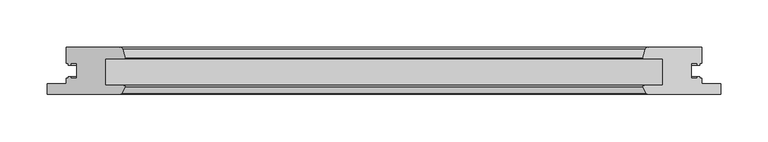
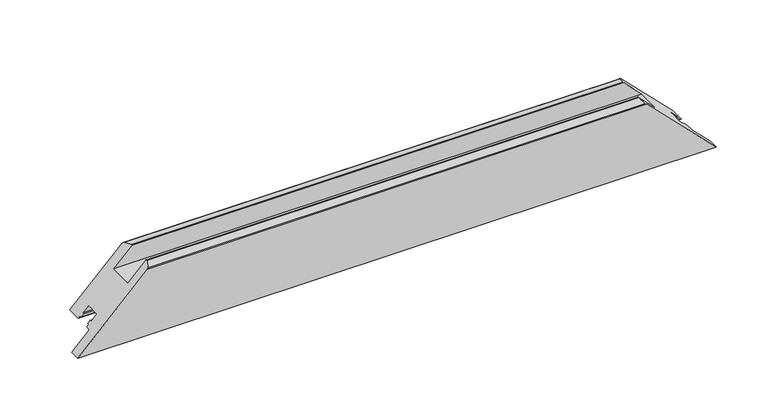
"""IFC4 building model written with IfcOpenShell, lengths in millimetres: proxy geometry, Weiku - Montante - Folha 02.2.01.017 : Weiku - Montante - Folha 02.2.01.017."""

import ifcopenshell
import ifcopenshell.guid

model = None  # the IFC model being written
_history = None  # IfcOwnerHistory: only IFC2X3 demands one
_inside = {}  # id of a spatial element -> (the spatial element, [elements in it])
_under = {}  # id of a project, library or spatial element -> (it, [spatial elements below it])
_declared = {}  # id of a project -> (the project, [libraries it declares])
_typed = {}  # id of a type object -> (the type object, [elements of that type])
_made_of = {}  # id of a material, layer set ... -> (it, [elements and type objects made of it])


def new_model(schema):
    """Start an empty IFC model of exactly this schema.

    Asked for "IFC4X3", IfcOpenShell would pick the latest addendum, in which some entities
    have other attributes; the version numbers below select the first issue.
    IFC2X3 requires an IfcOwnerHistory on every rooted entity: one is made here for all.
    """
    global model, _history
    if schema == "IFC4X3":
        model = ifcopenshell.file(schema_version=(4, 3, 0, 0))
    else:
        model = ifcopenshell.file(schema=schema)
    _inside.clear()
    _under.clear()
    _declared.clear()
    _typed.clear()
    _made_of.clear()
    _history = None
    if model.schema == "IFC2X3":
        org = make("IfcOrganization", Name="unknown")
        user = make(
            "IfcPersonAndOrganization",
            ThePerson=make("IfcPerson", FamilyName="unknown"),
            TheOrganization=org,
        )
        app = make(
            "IfcApplication",
            ApplicationDeveloper=org,
            Version="unknown",
            ApplicationFullName="unknown",
            ApplicationIdentifier="unknown",
        )
        _history = make(
            "IfcOwnerHistory",
            OwningUser=user,
            OwningApplication=app,
            ChangeAction="ADDED",
            CreationDate=0,
        )
    return model


def make(cls, **values):
    """One entity of the class cls with the attributes given. An attribute that is None is left unset."""
    return model.create_entity(
        cls, **{name: value for name, value in values.items() if value is not None}
    )


def rooted(cls, **values):
    """An entity with a GlobalId (a new one), such as an element, a storey or a relation."""
    return make(cls, GlobalId=ifcopenshell.guid.new(), OwnerHistory=_history, **values)


def si_unit(unit_type, name, prefix=None):
    """IfcSIUnit, for example si_unit("LENGTHUNIT", "METRE", prefix="MILLI")."""
    return make("IfcSIUnit", UnitType=unit_type, Prefix=prefix, Name=name)


def assignment(units):
    """IfcUnitAssignment: the units of a project."""
    return None if units is None else make("IfcUnitAssignment", Units=units)


def point(xyz):
    """IfcCartesianPoint."""
    return None if xyz is None else make("IfcCartesianPoint", Coordinates=xyz)


def direction(xyz):
    """IfcDirection."""
    return None if xyz is None else make("IfcDirection", DirectionRatios=xyz)


def frame(location, z_axis=None, x_axis=None):
    """IfcAxis2Placement3D, a coordinate frame: its origin and axes. An axis left out is left unset."""
    return make(
        "IfcAxis2Placement3D",
        Location=point(location),
        Axis=direction(z_axis),
        RefDirection=direction(x_axis),
    )


def origin():
    """The frame at (0, 0, 0) with its axes left unset."""
    return frame((0.0, 0.0, 0.0))


def place(relative_to, where):
    """IfcLocalPlacement: puts the frame where relative to a parent placement (None: the world)."""
    return make(
        "IfcLocalPlacement", PlacementRelTo=relative_to, RelativePlacement=where
    )


def context(
    kind, dimensions, precision=None, world=None, true_north=None, identifier=None
):
    """IfcGeometricRepresentationContext, for example the 3D "Model" context."""
    return make(
        "IfcGeometricRepresentationContext",
        ContextIdentifier=identifier,
        ContextType=kind,
        CoordinateSpaceDimension=dimensions,
        Precision=precision,
        WorldCoordinateSystem=world,
        TrueNorth=true_north,
    )


def project(units=None, contexts=None):
    """IfcProject with its units and contexts."""
    return rooted(
        "IfcProject",
        Name="project",
        RepresentationContexts=contexts,
        UnitsInContext=assignment(units),
    )


def spatial(cls, under=None, at=None, **own):
    """A site, building, storey or space (cls), placed at a placement, below another one or the project."""
    s = rooted(cls, ObjectPlacement=at, **own)
    if under is not None:
        _under.setdefault(under.id(), (under, []))[1].append(s)
    return s


def ellipse_curve(where, semi_axis1, semi_axis2):
    """IfcEllipse in the frame where."""
    return make(
        "IfcEllipse", Position=where, SemiAxis1=semi_axis1, SemiAxis2=semi_axis2
    )


def shape(context_of_items, identifier, shape_type, items):
    """IfcShapeRepresentation: the items that make up one representation, for example the "Body"."""
    return make(
        "IfcShapeRepresentation",
        ContextOfItems=context_of_items,
        RepresentationIdentifier=identifier,
        RepresentationType=shape_type,
        Items=items,
    )


def source(mapping_origin, context_of_items, identifier, shape_type, items):
    """IfcRepresentationMap: a shape defined once, which mapped items show again and again."""
    return make(
        "IfcRepresentationMap",
        MappingOrigin=mapping_origin,
        MappedRepresentation=shape(context_of_items, identifier, shape_type, items),
    )


def transform(
    local_origin,
    x_axis=None,
    y_axis=None,
    z_axis=None,
    scale=None,
    scale2=None,
    scale3=None,
    uniform=True,
):
    """IfcCartesianTransformationOperator3D, or its non-uniform kind. x_axis, y_axis, z_axis: its Axis1, 2, 3."""
    if uniform:
        return make(
            "IfcCartesianTransformationOperator3D",
            Axis1=direction(x_axis),
            Axis2=direction(y_axis),
            LocalOrigin=point(local_origin),
            Scale=scale,
            Axis3=direction(z_axis),
        )
    return make(
        "IfcCartesianTransformationOperator3DnonUniform",
        Axis1=direction(x_axis),
        Axis2=direction(y_axis),
        LocalOrigin=point(local_origin),
        Scale=scale,
        Axis3=direction(z_axis),
        Scale2=scale2,
        Scale3=scale3,
    )


def mapped(mapping_source, mapping_target):
    """IfcMappedItem: shows the shape of a source again, moved by a transform."""
    return make(
        "IfcMappedItem", MappingSource=mapping_source, MappingTarget=mapping_target
    )


def made_of(thing, what):
    """Note that an element or type object is made of a material, layer set ...; save() writes the relation."""
    if what is not None:
        _made_of.setdefault(what.id(), (what, []))[1].append(thing)
    return thing


def element(
    cls,
    number,
    at=None,
    inside=None,
    cuts=None,
    type_object=None,
    material=None,
    context=None,
    identifier="Body",
    shape_type=None,
    held_by="IfcProductDefinitionShape",
    body=None,
    shapes=None,
    **own,
):
    """One element of the class cls, such as IfcWall. Its Tag is "e" and its number.

    at: its placement. inside: the storey or other place that contains it. cuts: it is an
    opening in that element (IfcRelVoidsElement). A single representation is given by context,
    identifier, shape_type and body (its items); several are given by shapes. held_by: the class
    of the entity that holds the representations. save() writes the other relations.
    """
    e = rooted(cls, Tag="e%d" % number, ObjectPlacement=at, **own)
    if body is not None:
        shapes = [shape(context, identifier, shape_type, body)]
    if shapes is not None:
        e.Representation = make(held_by, Representations=shapes)
    if inside is not None:
        _inside.setdefault(inside.id(), (inside, []))[1].append(e)
    if cuts is not None:
        rooted(
            "IfcRelVoidsElement", RelatingBuildingElement=cuts, RelatedOpeningElement=e
        )
    if type_object is not None:
        _typed.setdefault(type_object.id(), (type_object, []))[1].append(e)
    return made_of(e, material)


def aggregate(whole, parts):
    """IfcRelAggregates: a whole, such as a stair, and the parts it consists of."""
    return rooted("IfcRelAggregates", RelatingObject=whole, RelatedObjects=parts)


def save(model, path):
    """Write the relations noted so far, then the file.

    IfcRelAggregates (storeys below a building ...), IfcRelContainedInSpatialStructure (elements
    in a storey), IfcRelDefinesByType, IfcRelAssociatesMaterial and IfcRelDeclares: one each for
    every whole, place, type object, material and project.
    """
    for whole, parts in _under.values():
        aggregate(whole, parts)
    for where, things in _inside.values():
        rooted(
            "IfcRelContainedInSpatialStructure",
            RelatedElements=things,
            RelatingStructure=where,
        )
    for kind, things in _typed.values():
        rooted("IfcRelDefinesByType", RelatedObjects=things, RelatingType=kind)
    for what, things in _made_of.values():
        rooted("IfcRelAssociatesMaterial", RelatedObjects=things, RelatingMaterial=what)
    for by, libraries in _declared.values():
        rooted("IfcRelDeclares", RelatingContext=by, RelatedDefinitions=libraries)
    model.write(path)


def plane_surface(at):
    """IfcPlane: the flat surface through the origin of the frame at, square to its z axis."""
    return make("IfcPlane", Position=at)


def cylinder_surface(at, radius):
    """IfcCylindricalSurface: all points at the distance radius from the z axis of the frame at."""
    return make("IfcCylindricalSurface", Position=at, Radius=radius)


def advanced_brep(points, edges, surfaces, faces):
    """IfcAdvancedBrep: a solid bounded by faces that lie on surfaces and meet in shared edges.

    An edge is (start, end): straight between two places in points (the first is 0);
    or (start, end, curve); or (start, end, curve, False) where it runs against its curve.
    A face is (place in surfaces, loops), or (place, loops, False) where it looks against
    its surface's normal. A loop lists edges by number (the first is 1), with a minus sign
    where the edge is run from its end to its start. The first loop is the outer one.
    """
    corners = [point(p) for p in points]
    vertices = [make("IfcVertexPoint", VertexGeometry=c) for c in corners]
    made = []
    for start, end, *more in edges:
        made.append(
            make(
                "IfcEdgeCurve",
                EdgeStart=vertices[start],
                EdgeEnd=vertices[end],
                EdgeGeometry=more[0] if more else make("IfcPolyline", Points=[corners[start], corners[end]]),
                SameSense=more[1] if len(more) > 1 else True,
            )
        )
    hull = []
    for where, loops, *sense in faces:
        bounds = []
        for j, loop in enumerate(loops):
            ring = [make("IfcOrientedEdge", EdgeElement=made[abs(k) - 1], Orientation=k > 0) for k in loop]
            bounds.append(
                make(
                    "IfcFaceOuterBound" if j == 0 else "IfcFaceBound",
                    Bound=make("IfcEdgeLoop", EdgeList=ring),
                    Orientation=True,
                )
            )
        hull.append(make("IfcAdvancedFace", Bounds=bounds, FaceSurface=surfaces[where], SameSense=sense[0] if sense else True))
    return make("IfcAdvancedBrep", Outer=make("IfcClosedShell", CfsFaces=hull))


def generic_models_6cb276b9(model_context):
    return source(origin(), model_context, "Body", "AdvancedBrep", [
        advanced_brep(
        [(-336.9166667, 50.0, 20.0), (-279.9163998, 50.0, 77.0002668), (279.9163998, 50.0, 77.0002668), (336.9166667, 50.0, 20.0), (-356.9166667, 0.0, 0.0), (356.9166667, 0.0, 0.0), (278.9038931, 0.0, 78.0127736), (-278.9038931, 0.0, 78.0127736), (-336.9166667, 33.1, 20.0), (-334.7166667, 33.1, 22.2), (-334.7166667, 31.1, 22.2), (-331.9166667, 31.1, 25.0), (-331.9166667, 33.1, 25.0), (-325.4166667, 33.1, 31.5), (-325.4166667, 16.9, 31.5), (-331.9166667, 16.9, 25.0), (-331.9166667, 18.9, 25.0), (-334.7166667, 18.9, 22.2), (-334.7166667, 16.9, 22.2), (-336.9166667, 16.9, 20.0), (-336.9166667, 11.5, 20.0), (-356.9166667, 11.5, 0.0), (-278.0099324, 0.5518546, 78.9067343), (-274.4679462, 7.617411, 82.4487204), (-275.6300951, 9.5, 81.2865715), (-295.4166667, 9.5, 61.5), (-295.4166667, 37.5, 61.5), (-274.9166667, 37.5, 82.0), (-274.4337038, 38.1294095, 82.4829629), (-277.0186224, 47.7764571, 79.8980443), (277.0186224, 47.7764571, 79.8980443), (274.4337038, 38.1294095, 82.4829629), (274.9166667, 37.5, 82.0), (295.4166667, 37.5, 61.5), (295.4166667, 9.5, 61.5), (275.6300951, 9.5, 81.2865715), (274.4679462, 7.617411, 82.4487204), (278.0099324, 0.5518546, 78.9067343), (356.9166667, 11.5, 0.0), (336.9166667, 11.5, 20.0), (336.9166667, 16.9, 20.0), (334.7166667, 16.9, 22.2), (334.7166667, 18.9, 22.2), (331.9166667, 18.9, 25.0), (331.9166667, 16.9, 25.0), (325.4166667, 16.9, 31.5), (325.4166667, 33.1, 31.5), (331.9166667, 33.1, 25.0), (331.9166667, 31.1, 25.0), (334.7166667, 31.1, 22.2), (334.7166667, 33.1, 22.2), (336.9166667, 33.1, 20.0)],
        [
            (0, 1),
            (1, 2),
            (2, 3),
            (3, 0),
            (4, 5),
            (5, 6),
            (6, 7),
            (7, 4),
            (0, 8),
            (8, 9),
            (9, 10),
            (10, 11),
            (11, 12),
            (12, 13),
            (13, 14),
            (14, 15),
            (15, 16),
            (16, 17),
            (17, 18),
            (18, 19),
            (19, 20),
            (20, 21),
            (21, 4),
            (7, 22, ellipse_curve(frame((-278.9038931, 1.0, 78.0127736), z_axis=(-0.7071067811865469, 0.0, 0.7071067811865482), x_axis=(-0.707106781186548, 0.0, -0.7071067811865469)), 1.4142136, 1.0)),
            (22, 23),
            (23, 24, ellipse_curve(frame((-275.6300951, 8.2, 81.2865715), z_axis=(-0.7071067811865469, 0.0, 0.7071067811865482), x_axis=(-0.707106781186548, 0.0, -0.7071067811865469)), 1.8384776, 1.3)),
            (24, 25),
            (25, 26),
            (26, 27),
            (27, 28, ellipse_curve(frame((-274.9166667, 38.0, 82.0), z_axis=(-0.7071067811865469, 0.0, 0.7071067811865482), x_axis=(-0.707106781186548, 0.0, -0.7071067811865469)), 0.7071068, 0.5)),
            (28, 29),
            (29, 1, ellipse_curve(frame((-279.9163998, 47.0, 77.0002668), z_axis=(-0.7071067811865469, 0.0, 0.7071067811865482), x_axis=(-0.707106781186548, 0.0, -0.7071067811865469)), 4.2426407, 3.0)),
            (2, 30, ellipse_curve(frame((279.9163998, 47.0, 77.0002668), z_axis=(0.7071067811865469, 0.0, 0.7071067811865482), x_axis=(-0.707106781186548, 0.0, 0.7071067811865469)), 4.2426407, 3.0)),
            (30, 31),
            (31, 32, ellipse_curve(frame((274.9166667, 38.0, 82.0), z_axis=(0.7071067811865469, 0.0, 0.7071067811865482), x_axis=(-0.707106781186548, 0.0, 0.7071067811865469)), 0.7071068, 0.5)),
            (32, 33),
            (33, 34),
            (34, 35),
            (35, 36, ellipse_curve(frame((275.6300951, 8.2, 81.2865715), z_axis=(0.7071067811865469, 0.0, 0.7071067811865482), x_axis=(-0.707106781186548, 0.0, 0.7071067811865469)), 1.8384776, 1.3)),
            (36, 37),
            (37, 6, ellipse_curve(frame((278.9038931, 1.0, 78.0127736), z_axis=(0.7071067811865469, 0.0, 0.7071067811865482), x_axis=(-0.707106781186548, 0.0, 0.7071067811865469)), 1.4142136, 1.0)),
            (5, 38),
            (38, 39),
            (39, 40),
            (40, 41),
            (41, 42),
            (42, 43),
            (43, 44),
            (44, 45),
            (45, 46),
            (46, 47),
            (47, 48),
            (48, 49),
            (49, 50),
            (50, 51),
            (51, 3),
            (37, 22),
            (36, 23),
            (35, 24),
            (34, 25),
            (33, 26),
            (32, 27),
            (31, 28),
            (30, 29),
            (51, 8),
            (50, 9),
            (49, 10),
            (48, 11),
            (47, 12),
            (46, 13),
            (45, 14),
            (44, 15),
            (43, 16),
            (42, 17),
            (41, 18),
            (40, 19),
            (39, 20),
            (38, 21),
        ],
        [
            plane_surface(frame((-356.9166667, 50.0, 77.0002668), z_axis=(0.0, 1.0, 0.0), x_axis=(1.0, 0.0, 0.0))),
            plane_surface(frame((-356.9166667, 0.0, 0.0), z_axis=(0.0, -1.0, 0.0), x_axis=(1.0, 0.0, 0.0))),
            plane_surface(frame((-385.2009379, 0.0, -28.2842712), z_axis=(-0.7071067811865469, 0.0, 0.7071067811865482), x_axis=(0.0, 1.0, 0.0))),
            plane_surface(frame((266.9166667, 0.0, 90.0), z_axis=(0.7071067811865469, 0.0, 0.7071067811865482), x_axis=(0.0, 1.0, 0.0))),
            cylinder_surface(frame((-356.9166667, 1.0, 78.0127736), z_axis=(-1.0, 0.0, 0.0), x_axis=(0.0, 1.0, 0.0)), 1.0),
            plane_surface(frame((-356.9166667, 0.5518546, 78.9067343), z_axis=(0.0, -0.4481453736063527, 0.8939606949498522), x_axis=(1.0, 0.0, 0.0))),
            cylinder_surface(frame((-356.9166667, 8.2, 81.2865715), z_axis=(-1.0, 0.0, 0.0), x_axis=(0.0, 1.0, 0.0)), 1.3),
            plane_surface(frame((-356.9166667, 9.5, 81.2865715), z_axis=(0.0, 1.0, 0.0), x_axis=(1.0, 0.0, 0.0))),
            plane_surface(frame((-356.9166667, 9.5, 61.5), z_axis=(0.0, 0.0, 1.0), x_axis=(1.0, 0.0, 0.0))),
            plane_surface(frame((-356.9166667, 37.5, 61.5), z_axis=(0.0, -1.0, 0.0), x_axis=(1.0, 0.0, 0.0))),
            cylinder_surface(frame((-356.9166667, 38.0, 82.0), z_axis=(-1.0, 0.0, 0.0), x_axis=(0.0, 1.0, 0.0)), 0.5),
            plane_surface(frame((-356.9166667, 38.1294095, 82.4829629), z_axis=(0.0, 0.2588190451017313, 0.9659258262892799), x_axis=(1.0, 0.0, 0.0))),
            cylinder_surface(frame((-356.9166667, 47.0, 77.0002668), z_axis=(-1.0, 0.0, 0.0), x_axis=(0.0, 1.0, 0.0)), 3.0),
            plane_surface(frame((-356.9166667, 50.0, 20.0), z_axis=(0.0, 0.0, -1.0), x_axis=(1.0, 0.0, 0.0))),
            plane_surface(frame((-356.9166667, 33.1, 20.0), z_axis=(0.0, -1.0, 0.0), x_axis=(1.0, 0.0, 0.0))),
            plane_surface(frame((-356.9166667, 33.1, 22.2), z_axis=(0.0, 0.0, -1.0), x_axis=(1.0, 0.0, 0.0))),
            plane_surface(frame((-356.9166667, 31.1, 22.2), z_axis=(0.0, -1.0, 0.0), x_axis=(1.0, 0.0, 0.0))),
            plane_surface(frame((-356.9166667, 31.1, 25.0), z_axis=(0.0, 0.0, 1.0), x_axis=(1.0, 0.0, 0.0))),
            plane_surface(frame((-356.9166667, 33.1, 25.0), z_axis=(0.0, -1.0, 0.0), x_axis=(1.0, 0.0, 0.0))),
            plane_surface(frame((-356.9166667, 33.1, 31.5), z_axis=(0.0, 0.0, -1.0), x_axis=(1.0, 0.0, 0.0))),
            plane_surface(frame((-356.9166667, 16.9, 31.5), z_axis=(0.0, 1.0, 0.0), x_axis=(1.0, 0.0, 0.0))),
            plane_surface(frame((-356.9166667, 16.9, 25.0), z_axis=(0.0, 0.0, 1.0), x_axis=(1.0, 0.0, 0.0))),
            plane_surface(frame((-356.9166667, 18.9, 25.0), z_axis=(0.0, 1.0, 0.0), x_axis=(1.0, 0.0, 0.0))),
            plane_surface(frame((-356.9166667, 18.9, 22.2), z_axis=(0.0, 0.0, -1.0), x_axis=(1.0, 0.0, 0.0))),
            plane_surface(frame((-356.9166667, 16.9, 22.2), z_axis=(0.0, 1.0, 0.0), x_axis=(1.0, 0.0, 0.0))),
            plane_surface(frame((-356.9166667, 16.9, 20.0), z_axis=(0.0, 0.0, -1.0), x_axis=(1.0, 0.0, 0.0))),
            plane_surface(frame((-356.9166667, 11.5, 20.0), z_axis=(0.0, 1.0, 0.0), x_axis=(1.0, 0.0, 0.0))),
            plane_surface(frame((-356.9166667, 11.5, 0.0), z_axis=(0.0, 0.0, -1.0), x_axis=(1.0, 0.0, 0.0))),
        ],
        [
            (0, [[1, 2, 3, 4]]),
            (1, [[5, 6, 7, 8]]),
            (2, [[-1, 9, 10, 11, 12, 13, 14, 15, 16, 17, 18, 19, 20, 21, 22, 23, -8, 24, 25, 26, 27, 28, 29, 30, 31, 32]]),
            (3, [[-3, 33, 34, 35, 36, 37, 38, 39, 40, 41, -6, 42, 43, 44, 45, 46, 47, 48, 49, 50, 51, 52, 53, 54, 55, 56]]),
            (4, [[-24, -7, -41, 57]]),
            (5, [[-25, -57, -40, 58]]),
            (6, [[-26, -58, -39, 59]]),
            (7, [[-27, -59, -38, 60]]),
            (8, [[-28, -60, -37, 61]]),
            (9, [[-29, -61, -36, 62]]),
            (10, [[-30, -62, -35, 63]]),
            (11, [[-31, -63, -34, 64]]),
            (12, [[-32, -64, -33, -2]]),
            (13, [[-9, -4, -56, 65]]),
            (14, [[-10, -65, -55, 66]]),
            (15, [[-11, -66, -54, 67]]),
            (16, [[-12, -67, -53, 68]]),
            (17, [[-13, -68, -52, 69]]),
            (18, [[-14, -69, -51, 70]]),
            (19, [[-15, -70, -50, 71]]),
            (20, [[-16, -71, -49, 72]]),
            (21, [[-17, -72, -48, 73]]),
            (22, [[-18, -73, -47, 74]]),
            (23, [[-19, -74, -46, 75]]),
            (24, [[-20, -75, -45, 76]]),
            (25, [[-21, -76, -44, 77]]),
            (26, [[78, -22, -77, -43]]),
            (27, [[-5, -23, -78, -42]]),
        ],
    ),
    ])


if __name__ == "__main__":
    model = new_model("IFC4")
    model_context = context("Model", 3, world=origin())
    ifc_project = project(units=[si_unit("LENGTHUNIT", "METRE", prefix="MILLI")], contexts=[model_context])
    site = spatial("IfcSite", under=ifc_project)
    building = spatial("IfcBuilding", under=site)
    placement = place(None, origin())
    generic_models_shape = generic_models_6cb276b9(model_context)
    element("IfcBuildingElementProxy", 1, Name="Weiku - Montante - Folha 02.2.01.017 : Weiku - Montante - Folha 02.2.01.017", ObjectType="Weiku - Montante - Folha 02.2.01.017 : Weiku - Montante - Folha 02.2.01.017", at=placement, inside=building, context=model_context, shape_type="MappedRepresentation", body=[
        mapped(generic_models_shape, transform((0.0, 0.0, 0.0), x_axis=(1.0, 0.0, 0.0), y_axis=(0.0, 1.0, 0.0), z_axis=(0.0, 0.0, 1.0))),
    ])
    save(model, "model.ifc")
